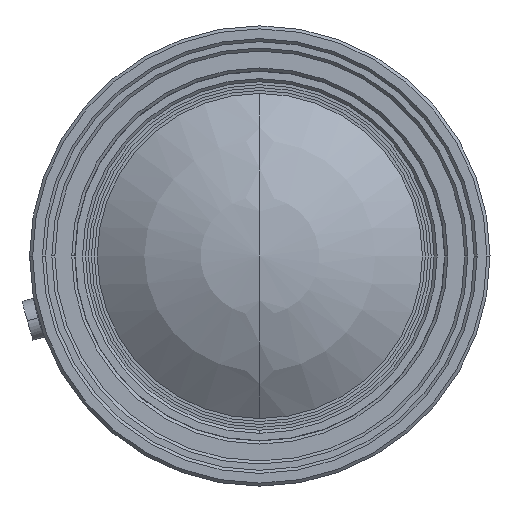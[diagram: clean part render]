
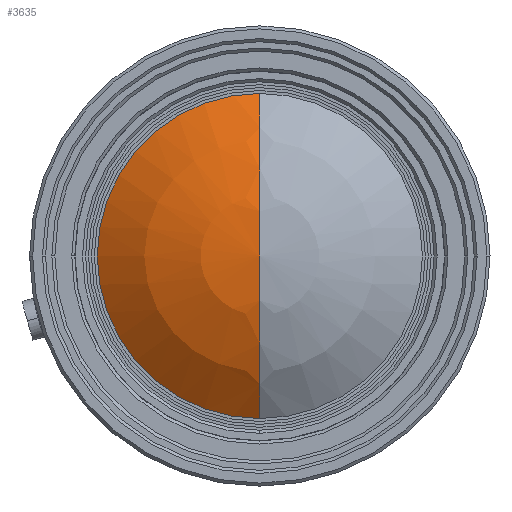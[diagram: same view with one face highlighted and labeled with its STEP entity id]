
A CAD part, left-side view. The second image highlights one B-rep face of the part: STEP entity #3635.
In plain terms, the highlighted spherical face has radius 25.657 mm.
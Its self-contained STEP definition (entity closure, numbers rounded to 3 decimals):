
#3482=CARTESIAN_POINT('',(0.,12.751,0.));
#3483=DIRECTION('',(1.,0.,0.));
#3484=DIRECTION('',(0.,1.,0.));
#3485=AXIS2_PLACEMENT_3D('',#3482,#3483,#3484);
#3487=CARTESIAN_POINT('',(0.,12.751,0.));
#3488=DIRECTION('',(-1.,0.,0.));
#3489=DIRECTION('',(0.,1.,0.));
#3490=AXIS2_PLACEMENT_3D('',#3487,#3488,#3489);
#3505=CARTESIAN_POINT('',(0.,32.483,0.));
#3506=DIRECTION('',(0.,1.,0.));
#3507=DIRECTION('',(0.,0.,1.));
#3508=AXIS2_PLACEMENT_3D('',#3505,#3506,#3507);
#3600=CARTESIAN_POINT('',(0.,38.408,0.));
#3601=CARTESIAN_POINT('',(0.,32.483,16.4));
#3602=VERTEX_POINT('',#3600);
#3603=VERTEX_POINT('',#3601);
#3608=CARTESIAN_POINT('',(0.,32.483,-16.4));
#3609=VERTEX_POINT('',#3608);
#3622=CARTESIAN_POINT('',(0.,12.751,0.));
#3623=DIRECTION('',(0.,1.,0.));
#3624=DIRECTION('',(0.,0.,-1.));
#3625=AXIS2_PLACEMENT_3D('',#3622,#3623,#3624);
#3626=SPHERICAL_SURFACE('',#3625,25.657);
#3628=ORIENTED_EDGE('',*,*,#3627,.F.);
#3630=ORIENTED_EDGE('',*,*,#3629,.T.);
#3632=ORIENTED_EDGE('',*,*,#3631,.F.);
#3633=EDGE_LOOP('',(#3628,#3630,#3632));
#3634=FACE_OUTER_BOUND('',#3633,.F.);
#3635=ADVANCED_FACE('',(#3634),#3626,.T.);
#3486=CIRCLE('',#3485,25.657);
#3491=CIRCLE('',#3490,25.657);
#3509=CIRCLE('',#3508,16.4);
#3627=EDGE_CURVE('',#3602,#3603,#3486,.T.);
#3629=EDGE_CURVE('',#3602,#3609,#3491,.T.);
#3631=EDGE_CURVE('',#3603,#3609,#3509,.T.);
